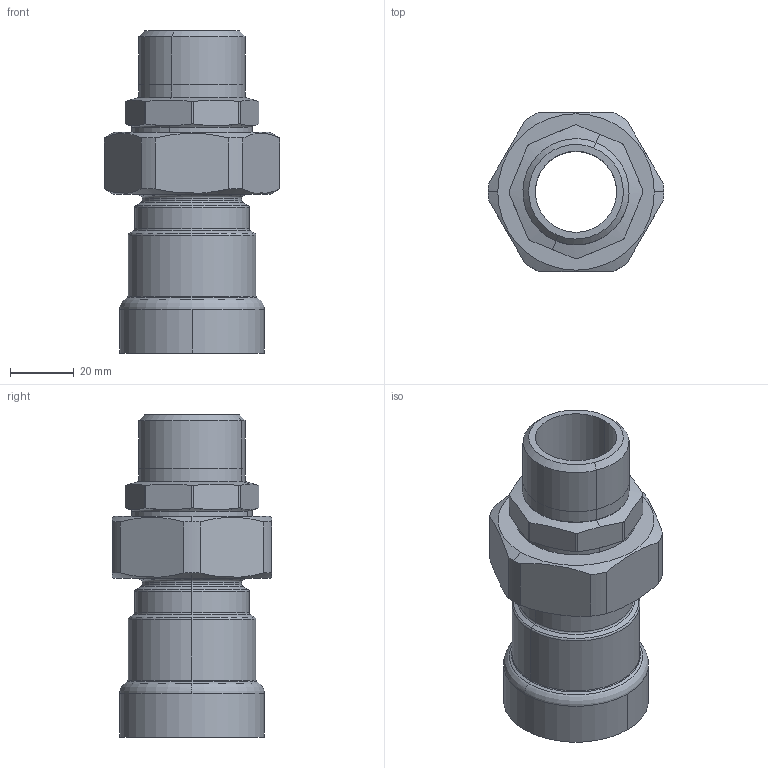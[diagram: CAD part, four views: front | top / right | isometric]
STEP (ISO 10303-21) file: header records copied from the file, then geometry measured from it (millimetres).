
FILE_DESCRIPTION(('Creo Elements/Direct Modeling STEP Export'),'2;1');
FILE_NAME('C9435_1.stp','2020-07-20T 9:39:56',(''),(''),'PTC Creo Elements/Direct Modeling STEP processor for AP214 (Solid Model)','PTC Creo Elements/Direct Modeling 19.0C 15-Aug-2015 (C) Parametric Technology GmbH','');
FILE_SCHEMA(('AUTOMOTIVE_DESIGN { 1 0 10303 214 1 1 1 1 }'));
Length unit declared in the file: millimetre
Products named in the file (1): C9435_1
Bounding box: 55 x 50 x 100.9 mm (x, y, z)
Volume: 70114 mm3; surface area: 26521.8 mm2
Topology: 1 solids, 1 shells, 87 faces, 208 edges, 126 vertices
Faces by surface type: cylinder 34, plane 19, cone 18, torus 16
Entity records: 3968 total; most frequent: CARTESIAN_POINT 2100, ORIENTED_EDGE 416, DIRECTION 338, EDGE_CURVE 208, AXIS2_PLACEMENT_3D 136, VERTEX_POINT 126, EDGE_LOOP 92, FACE_OUTER_BOUND 87
